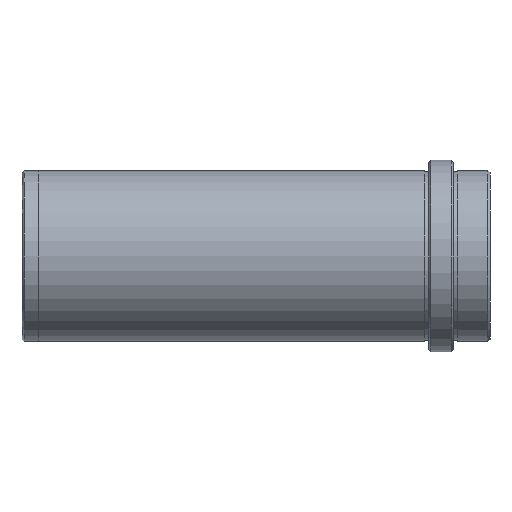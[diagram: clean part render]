
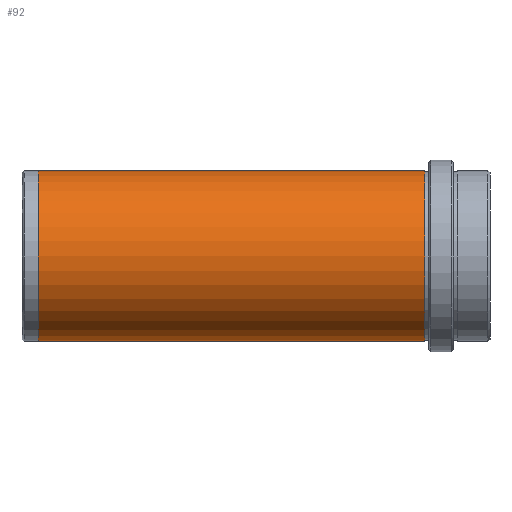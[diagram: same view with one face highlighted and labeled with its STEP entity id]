
A CAD part, left-side view. The second image highlights one B-rep face of the part: STEP entity #92.
In plain terms, the highlighted cylindrical face has radius 21 mm (diameter 42 mm), a full revolution.
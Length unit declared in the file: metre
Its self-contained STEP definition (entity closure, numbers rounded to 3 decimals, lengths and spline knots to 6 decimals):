
#92 = ADVANCED_FACE( '', ( #144, #145 ), #146, .T. );
#144 = FACE_OUTER_BOUND( '', #204, .T. );
#145 = FACE_OUTER_BOUND( '', #205, .T. );
#146 = CYLINDRICAL_SURFACE( '', #206, 0.021 );
#204 = EDGE_LOOP( '', ( #294 ) );
#205 = EDGE_LOOP( '', ( #295 ) );
#206 = AXIS2_PLACEMENT_3D( '', #296, #297, #298 );
#294 = ORIENTED_EDGE( '', *, *, #335, .T. );
#295 = ORIENTED_EDGE( '', *, *, #334, .F. );
#296 = CARTESIAN_POINT( '', ( 0., 0., 0. ) );
#297 = DIRECTION( '', ( 0., 1., 0. ) );
#298 = DIRECTION( '', ( 0., 0., -1. ) );
#334 = EDGE_CURVE( '', #369, #369, #370, .T. );
#335 = EDGE_CURVE( '', #371, #371, #372, .T. );
#369 = VERTEX_POINT( '', #409 );
#370 = CIRCLE( '', #410, 0.021 );
#371 = VERTEX_POINT( '', #411 );
#372 = CIRCLE( '', #412, 0.021 );
#409 = CARTESIAN_POINT( '', ( 0., 0.007, -0.021 ) );
#410 = AXIS2_PLACEMENT_3D( '', #464, #465, #466 );
#411 = CARTESIAN_POINT( '', ( 0., 0.102, -0.021 ) );
#412 = AXIS2_PLACEMENT_3D( '', #467, #468, #469 );
#464 = CARTESIAN_POINT( '', ( 0., 0.007, 0. ) );
#465 = DIRECTION( '', ( 0., -1., 0. ) );
#466 = DIRECTION( '', ( 0., 0., -1. ) );
#467 = CARTESIAN_POINT( '', ( 0., 0.102, 0. ) );
#468 = DIRECTION( '', ( 0., -1., 0. ) );
#469 = DIRECTION( '', ( 0., 0., -1. ) );
